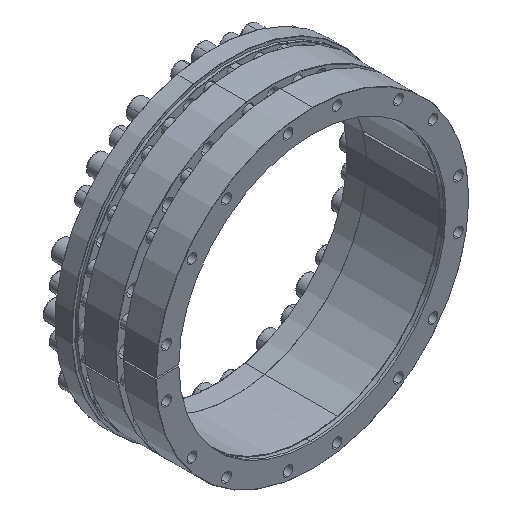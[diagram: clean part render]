
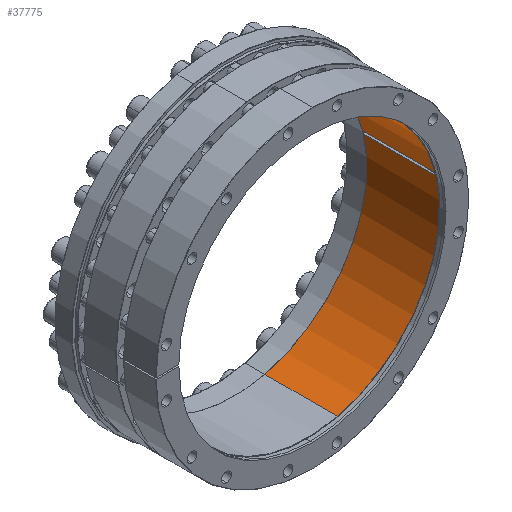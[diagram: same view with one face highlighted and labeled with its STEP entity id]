
A CAD part, isometric view. The second image highlights one B-rep face of the part: STEP entity #37775.
In plain terms, the highlighted cylindrical face has radius 240 mm (diameter 480 mm), a partial arc.
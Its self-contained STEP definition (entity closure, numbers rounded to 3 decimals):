
#31 = CARTESIAN_POINT ( 'NONE',  ( -56.027, 142.004, 233.369 ) ) ;
#362 = CARTESIAN_POINT ( 'NONE',  ( -56.027, 11.004, 233.369 ) ) ;
#421 = EDGE_CURVE ( 'NONE', #8069, #19542, #23565, .T. ) ;
#2255 = DIRECTION ( 'NONE',  ( 0., -1., 0. ) ) ;
#3095 = DIRECTION ( 'NONE',  ( 0., -1., 0. ) ) ;
#3858 = CIRCLE ( 'NONE', #36397, 240. ) ;
#4833 = CARTESIAN_POINT ( 'NONE',  ( 232.773, 11.004, 58.455 ) ) ;
#8069 = VERTEX_POINT ( 'NONE', #4833 ) ;
#10353 = VECTOR ( 'NONE', #40837, 1000. ) ;
#11871 = VECTOR ( 'NONE', #31348, 1000. ) ;
#13001 = DIRECTION ( 'NONE',  ( 0., -1., 0. ) ) ;
#13588 = ORIENTED_EDGE ( 'NONE', *, *, #23913, .T. ) ;
#13611 = ORIENTED_EDGE ( 'NONE', *, *, #36730, .T. ) ;
#14005 = ORIENTED_EDGE ( 'NONE', *, *, #28305, .T. ) ;
#14350 = CARTESIAN_POINT ( 'NONE',  ( 56.027, 11.004, -233.369 ) ) ;
#14433 = VERTEX_POINT ( 'NONE', #36997 ) ;
#15055 = DIRECTION ( 'NONE',  ( 0., -1., 0. ) ) ;
#15464 = CARTESIAN_POINT ( 'NONE',  ( 233.94, 11.004, 53.593 ) ) ;
#16969 = CIRCLE ( 'NONE', #32060, 240. ) ;
#17032 = EDGE_CURVE ( 'NONE', #37468, #19542, #22830, .T. ) ;
#17867 = ORIENTED_EDGE ( 'NONE', *, *, #33026, .F. ) ;
#18078 = CARTESIAN_POINT ( 'NONE',  ( 56.027, 11.004, -233.369 ) ) ;
#18679 = ORIENTED_EDGE ( 'NONE', *, *, #30247, .T. ) ;
#18809 = VECTOR ( 'NONE', #36832, 1000. ) ;
#19542 = VERTEX_POINT ( 'NONE', #362 ) ;
#20056 = EDGE_CURVE ( 'NONE', #25565, #8069, #20334, .T. ) ;
#20334 = LINE ( 'NONE', #48385, #10353 ) ;
#20387 = AXIS2_PLACEMENT_3D ( 'NONE', #24687, #36070, #32431 ) ;
#20759 = CYLINDRICAL_SURFACE ( 'NONE', #20387, 240. ) ;
#21163 = DIRECTION ( 'NONE',  ( 0., -1., 0. ) ) ;
#21165 = CARTESIAN_POINT ( 'NONE',  ( 232.773, 141.504, 58.455 ) ) ;
#22588 = VERTEX_POINT ( 'NONE', #15464 ) ;
#22830 = LINE ( 'NONE', #48206, #41705 ) ;
#23565 = CIRCLE ( 'NONE', #29927, 240. ) ;
#23913 = EDGE_CURVE ( 'NONE', #22588, #14433, #41849, .T. ) ;
#23965 = AXIS2_PLACEMENT_3D ( 'NONE', #43679, #21163, #47474 ) ;
#24687 = CARTESIAN_POINT ( 'NONE',  ( 0., 11.004, 0. ) ) ;
#24772 = CARTESIAN_POINT ( 'NONE',  ( 0., 141.504, 0. ) ) ;
#25565 = VERTEX_POINT ( 'NONE', #21165 ) ;
#27684 = ORIENTED_EDGE ( 'NONE', *, *, #421, .T. ) ;
#27877 = CARTESIAN_POINT ( 'NONE',  ( 233.94, 11.004, 53.593 ) ) ;
#28305 = EDGE_CURVE ( 'NONE', #45736, #31957, #48848, .T. ) ;
#28598 = DIRECTION ( 'NONE',  ( -0.233, 0., 0.972 ) ) ;
#29437 = CARTESIAN_POINT ( 'NONE',  ( 56.027, 142.004, -233.369 ) ) ;
#29927 = AXIS2_PLACEMENT_3D ( 'NONE', #35493, #13001, #39306 ) ;
#30247 = EDGE_CURVE ( 'NONE', #31957, #22588, #30699, .T. ) ;
#30699 = CIRCLE ( 'NONE', #23965, 240. ) ;
#31348 = DIRECTION ( 'NONE',  ( 0., 1., 0. ) ) ;
#31957 = VERTEX_POINT ( 'NONE', #14350 ) ;
#32060 = AXIS2_PLACEMENT_3D ( 'NONE', #37614, #15055, #41363 ) ;
#32431 = DIRECTION ( 'NONE',  ( 0.233, 0., -0.972 ) ) ;
#33026 = EDGE_CURVE ( 'NONE', #45736, #37468, #16969, .T. ) ;
#34294 = FACE_OUTER_BOUND ( 'NONE', #37020, .T. ) ;
#35493 = CARTESIAN_POINT ( 'NONE',  ( 0., 11.004, 0. ) ) ;
#36070 = DIRECTION ( 'NONE',  ( 0., -1., 0. ) ) ;
#36397 = AXIS2_PLACEMENT_3D ( 'NONE', #24772, #2255, #28598 ) ;
#36730 = EDGE_CURVE ( 'NONE', #14433, #25565, #3858, .T. ) ;
#36832 = DIRECTION ( 'NONE',  ( 0., -1., 0. ) ) ;
#36997 = CARTESIAN_POINT ( 'NONE',  ( 233.94, 141.504, 53.593 ) ) ;
#37020 = EDGE_LOOP ( 'NONE', ( #47285, #17867, #14005, #18679, #13588, #13611, #43712, #27684 ) ) ;
#37468 = VERTEX_POINT ( 'NONE', #31 ) ;
#37614 = CARTESIAN_POINT ( 'NONE',  ( 0., 142.004, 0. ) ) ;
#37775 = ADVANCED_FACE ( 'NONE', ( #34294 ), #20759, .F. ) ;
#39306 = DIRECTION ( 'NONE',  ( 0.233, 0., -0.972 ) ) ;
#40837 = DIRECTION ( 'NONE',  ( 0., -1., 0. ) ) ;
#41363 = DIRECTION ( 'NONE',  ( 0.233, 0., -0.972 ) ) ;
#41705 = VECTOR ( 'NONE', #3095, 1000. ) ;
#41849 = LINE ( 'NONE', #27877, #11871 ) ;
#43679 = CARTESIAN_POINT ( 'NONE',  ( 0., 11.004, 0. ) ) ;
#43712 = ORIENTED_EDGE ( 'NONE', *, *, #20056, .T. ) ;
#45736 = VERTEX_POINT ( 'NONE', #29437 ) ;
#47285 = ORIENTED_EDGE ( 'NONE', *, *, #17032, .F. ) ;
#47474 = DIRECTION ( 'NONE',  ( 0.233, 0., -0.972 ) ) ;
#48206 = CARTESIAN_POINT ( 'NONE',  ( -56.027, 11.004, 233.369 ) ) ;
#48385 = CARTESIAN_POINT ( 'NONE',  ( 232.773, 11.004, 58.455 ) ) ;
#48848 = LINE ( 'NONE', #18078, #18809 ) ;
